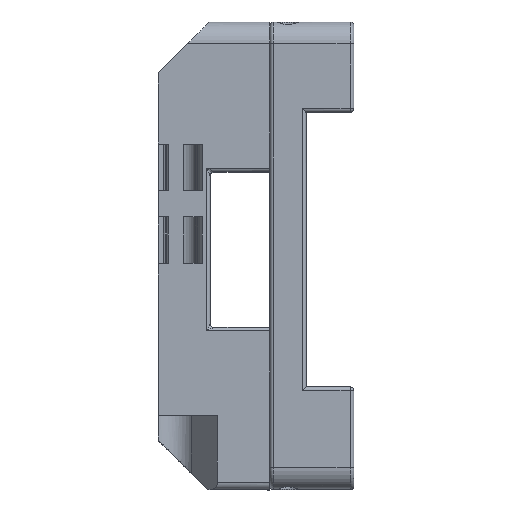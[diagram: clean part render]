
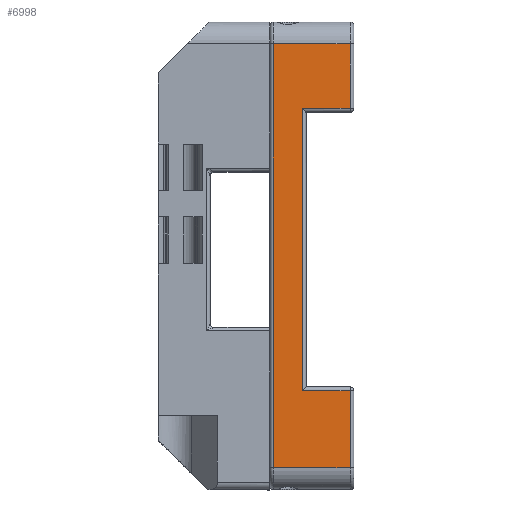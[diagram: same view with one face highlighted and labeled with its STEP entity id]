
A CAD part, top view. The second image highlights one B-rep face of the part: STEP entity #6998.
In plain terms, the highlighted planar face has unit normal (0, 0, 1).
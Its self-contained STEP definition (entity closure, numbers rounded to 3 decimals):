
#236=PLANE('',#7675);
#549=FACE_OUTER_BOUND('',#975,.T.);
#975=EDGE_LOOP('',(#5968,#5969,#5970,#5971,#5972,#5973,#5974,#5975));
#1936=LINE('',#11753,#2589);
#1944=LINE('',#11797,#2597);
#1947=LINE('',#11870,#2600);
#1948=LINE('',#11872,#2601);
#1949=LINE('',#11874,#2602);
#1950=LINE('',#11876,#2603);
#1951=LINE('',#11878,#2604);
#1952=LINE('',#11879,#2605);
#2589=VECTOR('',#9447,3.);
#2597=VECTOR('',#9463,3.);
#2600=VECTOR('',#9490,10.);
#2601=VECTOR('',#9491,10.);
#2602=VECTOR('',#9492,10.);
#2603=VECTOR('',#9493,10.);
#2604=VECTOR('',#9494,0.5);
#2605=VECTOR('',#9495,10.);
#3300=VERTEX_POINT('',#11749);
#3302=VERTEX_POINT('',#11752);
#3313=VERTEX_POINT('',#11795);
#3314=VERTEX_POINT('',#11796);
#3321=VERTEX_POINT('',#11871);
#3322=VERTEX_POINT('',#11873);
#3323=VERTEX_POINT('',#11875);
#3324=VERTEX_POINT('',#11877);
#4204=EDGE_CURVE('',#3302,#3300,#1936,.T.);
#4216=EDGE_CURVE('',#3313,#3314,#1944,.T.);
#4230=EDGE_CURVE('',#3314,#3300,#1947,.T.);
#4231=EDGE_CURVE('',#3321,#3313,#1948,.T.);
#4232=EDGE_CURVE('',#3322,#3321,#1949,.T.);
#4233=EDGE_CURVE('',#3323,#3322,#1950,.T.);
#4234=EDGE_CURVE('',#3323,#3324,#1951,.T.);
#4235=EDGE_CURVE('',#3302,#3324,#1952,.T.);
#5968=ORIENTED_EDGE('',*,*,#4204,.T.);
#5969=ORIENTED_EDGE('',*,*,#4230,.F.);
#5970=ORIENTED_EDGE('',*,*,#4216,.F.);
#5971=ORIENTED_EDGE('',*,*,#4231,.F.);
#5972=ORIENTED_EDGE('',*,*,#4232,.F.);
#5973=ORIENTED_EDGE('',*,*,#4233,.F.);
#5974=ORIENTED_EDGE('',*,*,#4234,.T.);
#5975=ORIENTED_EDGE('',*,*,#4235,.F.);
#6998=ADVANCED_FACE('',(#549),#236,.T.);
#7675=AXIS2_PLACEMENT_3D('',#11869,#9488,#9489);
#9447=DIRECTION('',(-1.,0.,0.));
#9463=DIRECTION('',(-1.,0.,0.));
#9488=DIRECTION('center_axis',(0.,0.,
1.));
#9489=DIRECTION('ref_axis',(0.,-1.,0.));
#9490=DIRECTION('',(0.,1.,0.));
#9491=DIRECTION('',(0.,-1.,0.));
#9492=DIRECTION('',(1.,0.,0.));
#9493=DIRECTION('',(0.,-1.,0.));
#9494=DIRECTION('',(1.,0.,0.));
#9495=DIRECTION('',(0.,-1.,0.));
#11749=CARTESIAN_POINT('',(-4.5,28.3,23.));
#11752=CARTESIAN_POINT('',(6.06,28.3,23.));
#11753=CARTESIAN_POINT('',(-7.04,28.3,23.));
#11795=CARTESIAN_POINT('',(6.06,-30.,23.));
#11796=CARTESIAN_POINT('',(-4.5,-30.,23.));
#11797=CARTESIAN_POINT('',(-7.04,-30.,23.));
#11869=CARTESIAN_POINT('Origin',(-7.04,26.2,23.));
#11870=CARTESIAN_POINT('',(-4.5,13.175,23.));
#11871=CARTESIAN_POINT('',(6.06,-19.4,23.));
#11872=CARTESIAN_POINT('',(6.06,13.175,23.));
#11873=CARTESIAN_POINT('',(-0.5,-19.4,23.));
#11874=CARTESIAN_POINT('',(-0.34,-19.4,23.));
#11875=CARTESIAN_POINT('',(-0.5,19.4,23.));
#11876=CARTESIAN_POINT('',(-0.5,13.1,23.));
#11877=CARTESIAN_POINT('',(6.06,19.4,23.));
#11878=CARTESIAN_POINT('',(-0.34,19.4,23.));
#11879=CARTESIAN_POINT('',(6.06,13.175,23.));
